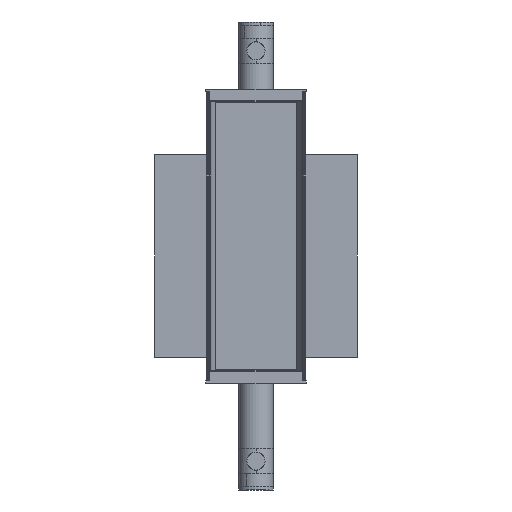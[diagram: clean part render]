
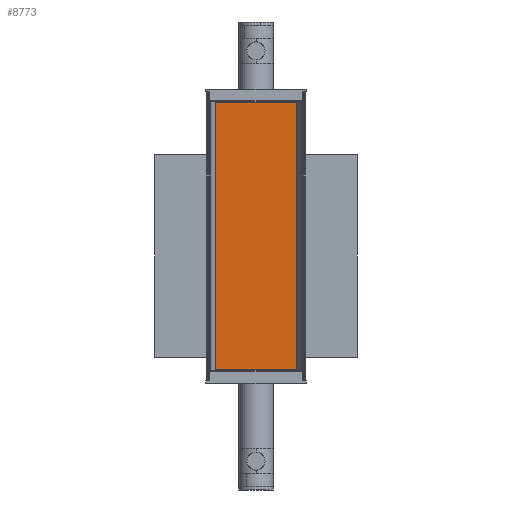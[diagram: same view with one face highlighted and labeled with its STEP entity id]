
A CAD part, front view. The second image highlights one B-rep face of the part: STEP entity #8773.
In plain terms, the highlighted planar face has unit normal (0, -1, 0).
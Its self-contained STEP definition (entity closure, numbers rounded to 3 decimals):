
#182 = VERTEX_POINT ( 'NONE', #5755 ) ;
#280 = LINE ( 'NONE', #12292, #7833 ) ;
#1225 = DIRECTION ( 'NONE',  ( -1., 0., 0. ) ) ;
#1381 = LINE ( 'NONE', #8796, #6401 ) ;
#1390 = VERTEX_POINT ( 'NONE', #5977 ) ;
#2106 = CARTESIAN_POINT ( 'NONE',  ( 22.5, 34.757, 74. ) ) ;
#2728 = DIRECTION ( 'NONE',  ( 0., -1., 0. ) ) ;
#3191 = EDGE_CURVE ( 'NONE', #1390, #3648, #8572, .T. ) ;
#3221 = ORIENTED_EDGE ( 'NONE', *, *, #12072, .T. ) ;
#3507 = VECTOR ( 'NONE', #10271, 1000. ) ;
#3566 = EDGE_CURVE ( 'NONE', #182, #8973, #280, .T. ) ;
#3648 = VERTEX_POINT ( 'NONE', #10489 ) ;
#4297 = DIRECTION ( 'NONE',  ( 1., 0., 0. ) ) ;
#4645 = AXIS2_PLACEMENT_3D ( 'NONE', #11242, #2728, #9351 ) ;
#4945 = LINE ( 'NONE', #9037, #9716 ) ;
#5755 = CARTESIAN_POINT ( 'NONE',  ( 22.5, 34.757, -74. ) ) ;
#5977 = CARTESIAN_POINT ( 'NONE',  ( -22.5, 34.757, 74. ) ) ;
#6401 = VECTOR ( 'NONE', #1225, 1000. ) ;
#6839 = FACE_OUTER_BOUND ( 'NONE', #11502, .T. ) ;
#7833 = VECTOR ( 'NONE', #11340, 1000. ) ;
#8404 = PLANE ( 'NONE',  #4645 ) ;
#8572 = LINE ( 'NONE', #9322, #3507 ) ;
#8592 = ORIENTED_EDGE ( 'NONE', *, *, #3566, .T. ) ;
#8773 = ADVANCED_FACE ( 'NONE', ( #6839 ), #8404, .T. ) ;
#8796 = CARTESIAN_POINT ( 'NONE',  ( -22.5, 34.757, 74. ) ) ;
#8973 = VERTEX_POINT ( 'NONE', #2106 ) ;
#9037 = CARTESIAN_POINT ( 'NONE',  ( -22.5, 34.757, -74. ) ) ;
#9322 = CARTESIAN_POINT ( 'NONE',  ( -22.5, 34.757, -74. ) ) ;
#9351 = DIRECTION ( 'NONE',  ( 1., 0., 0. ) ) ;
#9567 = EDGE_CURVE ( 'NONE', #3648, #182, #4945, .T. ) ;
#9716 = VECTOR ( 'NONE', #4297, 1000. ) ;
#9774 = ORIENTED_EDGE ( 'NONE', *, *, #3191, .T. ) ;
#10270 = ORIENTED_EDGE ( 'NONE', *, *, #9567, .T. ) ;
#10271 = DIRECTION ( 'NONE',  ( 0., 0., -1. ) ) ;
#10489 = CARTESIAN_POINT ( 'NONE',  ( -22.5, 34.757, -74. ) ) ;
#11242 = CARTESIAN_POINT ( 'NONE',  ( 0., 34.757, 0. ) ) ;
#11340 = DIRECTION ( 'NONE',  ( 0., 0., 1. ) ) ;
#11502 = EDGE_LOOP ( 'NONE', ( #3221, #9774, #10270, #8592 ) ) ;
#12072 = EDGE_CURVE ( 'NONE', #8973, #1390, #1381, .T. ) ;
#12292 = CARTESIAN_POINT ( 'NONE',  ( 22.5, 34.757, -74. ) ) ;
